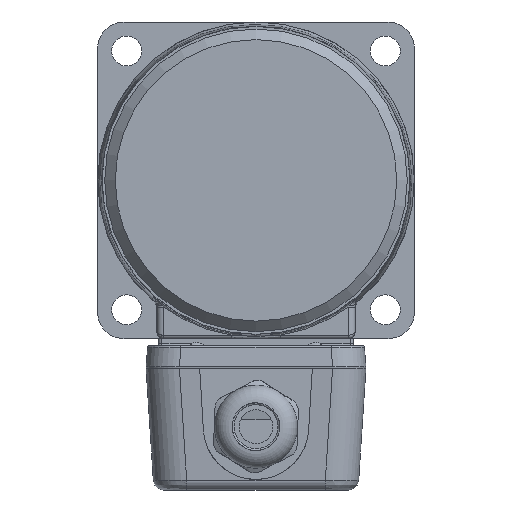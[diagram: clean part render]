
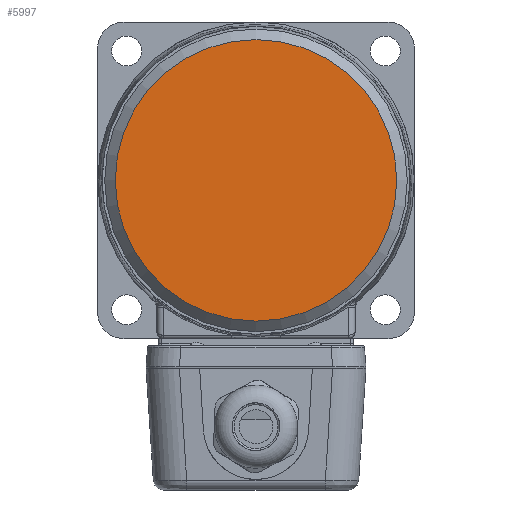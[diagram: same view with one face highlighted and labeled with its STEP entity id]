
A CAD part, left-side view. The second image highlights one B-rep face of the part: STEP entity #5997.
In plain terms, the highlighted planar face has unit normal (-1, 0, 0).
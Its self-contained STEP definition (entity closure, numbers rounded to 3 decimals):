
#443=CIRCLE('',#6372,40.);
#664=FACE_OUTER_BOUND('',#1027,.T.);
#1027=EDGE_LOOP('',(#3805));
#2377=VERTEX_POINT('',#8590);
#2944=EDGE_CURVE('',#2377,#2377,#443,.T.);
#3805=ORIENTED_EDGE('',*,*,#2944,.F.);
#5485=PLANE('',#6371);
#5997=ADVANCED_FACE('',(#664),#5485,.T.);
#6371=AXIS2_PLACEMENT_3D('',#8589,#6970,#6971);
#6372=AXIS2_PLACEMENT_3D('',#8591,#6972,#6973);
#6970=DIRECTION('center_axis',(-1.,0.,0.));
#6971=DIRECTION('ref_axis',(0.,0.,1.));
#6972=DIRECTION('center_axis',(1.,0.,0.));
#6973=DIRECTION('ref_axis',(0.,1.,0.));
#8589=CARTESIAN_POINT('Origin',(0.,20.,
0.));
#8590=CARTESIAN_POINT('',(0.,40.,0.));
#8591=CARTESIAN_POINT('Origin',(0.,0.,
0.));
